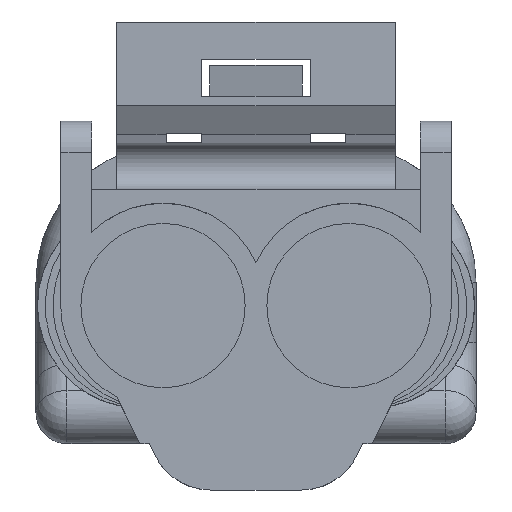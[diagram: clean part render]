
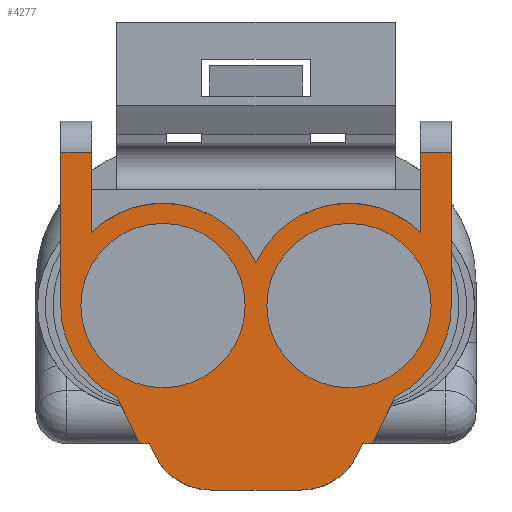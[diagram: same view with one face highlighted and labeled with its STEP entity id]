
A CAD part, left-side view. The second image highlights one B-rep face of the part: STEP entity #4277.
In plain terms, the highlighted planar face has unit normal (-1, 0, 0).
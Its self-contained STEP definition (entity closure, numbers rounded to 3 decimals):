
#330=CARTESIAN_POINT('Vertex',(-24.,6.747,-3.65)) ;
#333=CARTESIAN_POINT('Line Origine',(-24.,7.124,-2.895)) ;
#337=CARTESIAN_POINT('Vertex',(-24.,7.5,-2.139)) ;
#631=CARTESIAN_POINT('Axis2P3D Location',(-24.,6.,0.8)) ;
#635=CARTESIAN_POINT('Vertex',(-24.,9.3,0.8)) ;
#666=CARTESIAN_POINT('Vertex',(-24.,-1.5,-2.139)) ;
#671=CARTESIAN_POINT('Line Origine',(-24.,-1.124,-2.895)) ;
#675=CARTESIAN_POINT('Vertex',(-24.,-0.747,-3.65)) ;
#1011=CARTESIAN_POINT('Vertex',(-24.,-3.3,0.8)) ;
#1016=CARTESIAN_POINT('Axis2P3D Location',(-24.,0.,0.8)) ;
#1327=CARTESIAN_POINT('Vertex',(-24.,-0.447,-3.65)) ;
#1343=CARTESIAN_POINT('Vertex',(-24.,6.447,-3.65)) ;
#1346=CARTESIAN_POINT('Line Origine',(-24.,6.597,-3.65)) ;
#1356=CARTESIAN_POINT('Line Origine',(-24.,-0.597,-3.65)) ;
#1888=CARTESIAN_POINT('Axis2P3D Location',(-24.,6.,0.8)) ;
#1892=CARTESIAN_POINT('Vertex',(-24.,6.,4.1)) ;
#1894=CARTESIAN_POINT('Vertex',(-24.,8.3,3.166)) ;
#1897=CARTESIAN_POINT('Axis2P3D Location',(-24.,6.,0.8)) ;
#1901=CARTESIAN_POINT('Vertex',(-24.,3.,2.175)) ;
#1975=CARTESIAN_POINT('Axis2P3D Location',(-24.,0.,0.8)) ;
#1979=CARTESIAN_POINT('Vertex',(-24.,-2.3,3.166)) ;
#1981=CARTESIAN_POINT('Vertex',(-24.,0.,4.1)) ;
#1989=CARTESIAN_POINT('Axis2P3D Location',(-24.,0.,0.8)) ;
#4072=CARTESIAN_POINT('Vertex',(-24.,6.252,-4.042)) ;
#4077=CARTESIAN_POINT('Line Origine',(-24.,6.35,-3.846)) ;
#4103=CARTESIAN_POINT('Vertex',(-24.,-0.252,-4.042)) ;
#4113=CARTESIAN_POINT('Line Origine',(-24.,-0.35,-3.846)) ;
#4136=CARTESIAN_POINT('Vertex',(-24.,9.3,5.75)) ;
#4139=CARTESIAN_POINT('Line Origine',(-24.,3.,5.75)) ;
#4143=CARTESIAN_POINT('Vertex',(-24.,8.3,5.75)) ;
#4165=CARTESIAN_POINT('Axis2P3D Location',(-24.,0.,-3.65)) ;
#4170=CARTESIAN_POINT('Line Origine',(-24.,-2.3,4.458)) ;
#4174=CARTESIAN_POINT('Vertex',(-24.,-2.3,5.75)) ;
#4177=CARTESIAN_POINT('Line Origine',(-24.,8.3,4.458)) ;
#4182=CARTESIAN_POINT('Line Origine',(-24.,9.3,3.275)) ;
#4187=CARTESIAN_POINT('Axis2P3D Location',(-24.,4.462,-3.15)) ;
#4191=CARTESIAN_POINT('Vertex',(-24.,4.462,-5.15)) ;
#4194=CARTESIAN_POINT('Line Origine',(-24.,3.,-5.15)) ;
#4198=CARTESIAN_POINT('Vertex',(-24.,1.538,-5.15)) ;
#4201=CARTESIAN_POINT('Axis2P3D Location',(-24.,1.538,-3.15)) ;
#4206=CARTESIAN_POINT('Line Origine',(-24.,-3.3,3.275)) ;
#4210=CARTESIAN_POINT('Vertex',(-24.,-3.3,5.75)) ;
#4213=CARTESIAN_POINT('Line Origine',(-24.,-2.8,5.75)) ;
#4241=CARTESIAN_POINT('Axis2P3D Location',(-24.,0.,0.8)) ;
#4245=CARTESIAN_POINT('Vertex',(-24.,-2.65,0.8)) ;
#4247=CARTESIAN_POINT('Vertex',(-24.,2.65,0.8)) ;
#4250=CARTESIAN_POINT('Axis2P3D Location',(-24.,0.,0.8)) ;
#4259=CARTESIAN_POINT('Axis2P3D Location',(-24.,6.,0.8)) ;
#4263=CARTESIAN_POINT('Vertex',(-24.,3.35,0.8)) ;
#4265=CARTESIAN_POINT('Vertex',(-24.,8.65,0.8)) ;
#4268=CARTESIAN_POINT('Axis2P3D Location',(-24.,6.,0.8)) ;
#334=DIRECTION('Vector Direction',(0.,0.446,0.895)) ;
#632=DIRECTION('Axis2P3D Direction',(1.,0.,0.)) ;
#672=DIRECTION('Vector Direction',(0.,-0.446,0.895)) ;
#1017=DIRECTION('Axis2P3D Direction',(1.,0.,0.)) ;
#1347=DIRECTION('Vector Direction',(0.,1.,0.)) ;
#1357=DIRECTION('Vector Direction',(0.,1.,0.)) ;
#1889=DIRECTION('Axis2P3D Direction',(-1.,0.,0.)) ;
#1898=DIRECTION('Axis2P3D Direction',(-1.,0.,0.)) ;
#1976=DIRECTION('Axis2P3D Direction',(-1.,0.,0.)) ;
#1990=DIRECTION('Axis2P3D Direction',(-1.,0.,0.)) ;
#4078=DIRECTION('Vector Direction',(0.,-0.446,-0.895)) ;
#4114=DIRECTION('Vector Direction',(0.,-0.446,0.895)) ;
#4140=DIRECTION('Vector Direction',(0.,1.,0.)) ;
#4166=DIRECTION('Axis2P3D Direction',(-1.,0.,-0.)) ;
#4167=DIRECTION('Axis2P3D XDirection',(-0.,0.,1.)) ;
#4171=DIRECTION('Vector Direction',(0.,0.,1.)) ;
#4178=DIRECTION('Vector Direction',(0.,0.,1.)) ;
#4183=DIRECTION('Vector Direction',(0.,0.,1.)) ;
#4188=DIRECTION('Axis2P3D Direction',(-1.,0.,-0.)) ;
#4195=DIRECTION('Vector Direction',(0.,1.,0.)) ;
#4202=DIRECTION('Axis2P3D Direction',(-1.,0.,-0.)) ;
#4207=DIRECTION('Vector Direction',(0.,0.,1.)) ;
#4214=DIRECTION('Vector Direction',(0.,1.,0.)) ;
#4242=DIRECTION('Axis2P3D Direction',(-1.,0.,-0.)) ;
#4251=DIRECTION('Axis2P3D Direction',(-1.,0.,-0.)) ;
#4260=DIRECTION('Axis2P3D Direction',(-1.,0.,-0.)) ;
#4269=DIRECTION('Axis2P3D Direction',(-1.,0.,-0.)) ;
#633=AXIS2_PLACEMENT_3D('Circle Axis2P3D',#631,#632,$) ;
#1018=AXIS2_PLACEMENT_3D('Circle Axis2P3D',#1016,#1017,$) ;
#1890=AXIS2_PLACEMENT_3D('Circle Axis2P3D',#1888,#1889,$) ;
#1899=AXIS2_PLACEMENT_3D('Circle Axis2P3D',#1897,#1898,$) ;
#1977=AXIS2_PLACEMENT_3D('Circle Axis2P3D',#1975,#1976,$) ;
#1991=AXIS2_PLACEMENT_3D('Circle Axis2P3D',#1989,#1990,$) ;
#4168=AXIS2_PLACEMENT_3D('Plane Axis2P3D',#4165,#4166,#4167) ;
#4189=AXIS2_PLACEMENT_3D('Circle Axis2P3D',#4187,#4188,$) ;
#4203=AXIS2_PLACEMENT_3D('Circle Axis2P3D',#4201,#4202,$) ;
#4243=AXIS2_PLACEMENT_3D('Circle Axis2P3D',#4241,#4242,$) ;
#4252=AXIS2_PLACEMENT_3D('Circle Axis2P3D',#4250,#4251,$) ;
#4261=AXIS2_PLACEMENT_3D('Circle Axis2P3D',#4259,#4260,$) ;
#4270=AXIS2_PLACEMENT_3D('Circle Axis2P3D',#4268,#4269,$) ;
#4219=ORIENTED_EDGE('',*,*,#4176,.F.) ;
#4220=ORIENTED_EDGE('',*,*,#1983,.T.) ;
#4221=ORIENTED_EDGE('',*,*,#1993,.T.) ;
#4222=ORIENTED_EDGE('',*,*,#1903,.T.) ;
#4223=ORIENTED_EDGE('',*,*,#1896,.T.) ;
#4224=ORIENTED_EDGE('',*,*,#4181,.T.) ;
#4225=ORIENTED_EDGE('',*,*,#4145,.T.) ;
#4226=ORIENTED_EDGE('',*,*,#4186,.F.) ;
#4227=ORIENTED_EDGE('',*,*,#637,.T.) ;
#4228=ORIENTED_EDGE('',*,*,#339,.F.) ;
#4229=ORIENTED_EDGE('',*,*,#1350,.F.) ;
#4230=ORIENTED_EDGE('',*,*,#4081,.T.) ;
#4231=ORIENTED_EDGE('',*,*,#4193,.F.) ;
#4232=ORIENTED_EDGE('',*,*,#4200,.F.) ;
#4233=ORIENTED_EDGE('',*,*,#4205,.F.) ;
#4234=ORIENTED_EDGE('',*,*,#4117,.T.) ;
#4235=ORIENTED_EDGE('',*,*,#1360,.F.) ;
#4236=ORIENTED_EDGE('',*,*,#677,.T.) ;
#4237=ORIENTED_EDGE('',*,*,#1020,.T.) ;
#4238=ORIENTED_EDGE('',*,*,#4212,.T.) ;
#4239=ORIENTED_EDGE('',*,*,#4217,.T.) ;
#4256=ORIENTED_EDGE('',*,*,#4249,.F.) ;
#4257=ORIENTED_EDGE('',*,*,#4254,.F.) ;
#4274=ORIENTED_EDGE('',*,*,#4267,.F.) ;
#4275=ORIENTED_EDGE('',*,*,#4272,.F.) ;
#4258=FACE_BOUND('',#4255,.T.) ;
#4276=FACE_BOUND('',#4273,.T.) ;
#335=VECTOR('Line Direction',#334,1.) ;
#673=VECTOR('Line Direction',#672,1.) ;
#1348=VECTOR('Line Direction',#1347,1.) ;
#1358=VECTOR('Line Direction',#1357,1.) ;
#4079=VECTOR('Line Direction',#4078,1.) ;
#4115=VECTOR('Line Direction',#4114,1.) ;
#4141=VECTOR('Line Direction',#4140,1.) ;
#4172=VECTOR('Line Direction',#4171,1.) ;
#4179=VECTOR('Line Direction',#4178,1.) ;
#4184=VECTOR('Line Direction',#4183,1.) ;
#4196=VECTOR('Line Direction',#4195,1.) ;
#4208=VECTOR('Line Direction',#4207,1.) ;
#4215=VECTOR('Line Direction',#4214,1.) ;
#4277=ADVANCED_FACE('\X2\FF8AFF9FFF70FF82\X0\ \X2\FF8EFF9EFF83FF9EFF68FF70\X0\',(#4240,#4258,#4276),#4169,.T.) ;
#634=CIRCLE('generated circle',#633,3.3) ;
#1019=CIRCLE('generated circle',#1018,3.3) ;
#1891=CIRCLE('generated circle',#1890,3.3) ;
#1900=CIRCLE('generated circle',#1899,3.3) ;
#1978=CIRCLE('generated circle',#1977,3.3) ;
#1992=CIRCLE('generated circle',#1991,3.3) ;
#4190=CIRCLE('generated circle',#4189,2.) ;
#4204=CIRCLE('generated circle',#4203,2.) ;
#4244=CIRCLE('generated circle',#4243,2.65) ;
#4253=CIRCLE('generated circle',#4252,2.65) ;
#4262=CIRCLE('generated circle',#4261,2.65) ;
#4271=CIRCLE('generated circle',#4270,2.65) ;
#339=EDGE_CURVE('',#331,#338,#336,.T.) ;
#637=EDGE_CURVE('',#636,#338,#634,.F.) ;
#677=EDGE_CURVE('',#676,#667,#674,.T.) ;
#1020=EDGE_CURVE('',#667,#1012,#1019,.F.) ;
#1350=EDGE_CURVE('',#1344,#331,#1349,.T.) ;
#1360=EDGE_CURVE('',#676,#1328,#1359,.T.) ;
#1896=EDGE_CURVE('',#1893,#1895,#1891,.T.) ;
#1903=EDGE_CURVE('',#1902,#1893,#1900,.T.) ;
#1983=EDGE_CURVE('',#1980,#1982,#1978,.T.) ;
#1993=EDGE_CURVE('',#1982,#1902,#1992,.T.) ;
#4081=EDGE_CURVE('',#1344,#4073,#4080,.T.) ;
#4117=EDGE_CURVE('',#4104,#1328,#4116,.T.) ;
#4145=EDGE_CURVE('',#4144,#4137,#4142,.T.) ;
#4176=EDGE_CURVE('',#1980,#4175,#4173,.T.) ;
#4181=EDGE_CURVE('',#1895,#4144,#4180,.T.) ;
#4186=EDGE_CURVE('',#636,#4137,#4185,.T.) ;
#4193=EDGE_CURVE('',#4192,#4073,#4190,.F.) ;
#4200=EDGE_CURVE('',#4199,#4192,#4197,.T.) ;
#4205=EDGE_CURVE('',#4104,#4199,#4204,.F.) ;
#4212=EDGE_CURVE('',#1012,#4211,#4209,.T.) ;
#4217=EDGE_CURVE('',#4211,#4175,#4216,.T.) ;
#4249=EDGE_CURVE('',#4246,#4248,#4244,.T.) ;
#4254=EDGE_CURVE('',#4248,#4246,#4253,.T.) ;
#4267=EDGE_CURVE('',#4264,#4266,#4262,.T.) ;
#4272=EDGE_CURVE('',#4266,#4264,#4271,.T.) ;
#4218=EDGE_LOOP('',(#4219,#4220,#4221,#4222,#4223,#4224,#4225,#4226,#4227,#4228,#4229,#4230,#4231,#4232,#4233,#4234,#4235,#4236,#4237,#4238,#4239)) ;
#4255=EDGE_LOOP('',(#4256,#4257)) ;
#4273=EDGE_LOOP('',(#4274,#4275)) ;
#4240=FACE_OUTER_BOUND('',#4218,.T.) ;
#336=LINE('Line',#333,#335) ;
#674=LINE('Line',#671,#673) ;
#1349=LINE('Line',#1346,#1348) ;
#1359=LINE('Line',#1356,#1358) ;
#4080=LINE('Line',#4077,#4079) ;
#4116=LINE('Line',#4113,#4115) ;
#4142=LINE('Line',#4139,#4141) ;
#4173=LINE('Line',#4170,#4172) ;
#4180=LINE('Line',#4177,#4179) ;
#4185=LINE('Line',#4182,#4184) ;
#4197=LINE('Line',#4194,#4196) ;
#4209=LINE('Line',#4206,#4208) ;
#4216=LINE('Line',#4213,#4215) ;
#4169=PLANE('',#4168) ;
#331=VERTEX_POINT('',#330) ;
#338=VERTEX_POINT('',#337) ;
#636=VERTEX_POINT('',#635) ;
#667=VERTEX_POINT('',#666) ;
#676=VERTEX_POINT('',#675) ;
#1012=VERTEX_POINT('',#1011) ;
#1328=VERTEX_POINT('',#1327) ;
#1344=VERTEX_POINT('',#1343) ;
#1893=VERTEX_POINT('',#1892) ;
#1895=VERTEX_POINT('',#1894) ;
#1902=VERTEX_POINT('',#1901) ;
#1980=VERTEX_POINT('',#1979) ;
#1982=VERTEX_POINT('',#1981) ;
#4073=VERTEX_POINT('',#4072) ;
#4104=VERTEX_POINT('',#4103) ;
#4137=VERTEX_POINT('',#4136) ;
#4144=VERTEX_POINT('',#4143) ;
#4175=VERTEX_POINT('',#4174) ;
#4192=VERTEX_POINT('',#4191) ;
#4199=VERTEX_POINT('',#4198) ;
#4211=VERTEX_POINT('',#4210) ;
#4246=VERTEX_POINT('',#4245) ;
#4248=VERTEX_POINT('',#4247) ;
#4264=VERTEX_POINT('',#4263) ;
#4266=VERTEX_POINT('',#4265) ;
